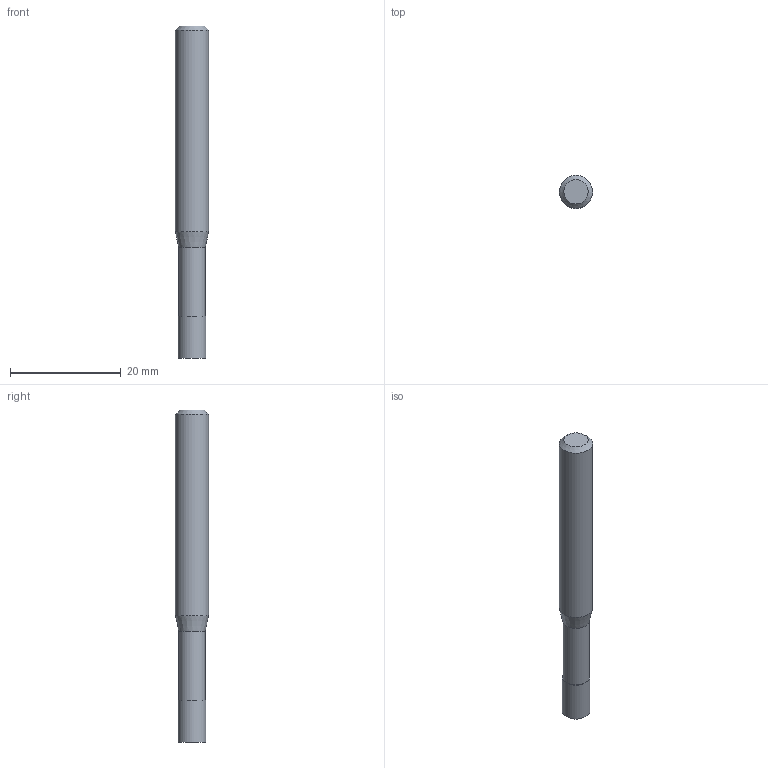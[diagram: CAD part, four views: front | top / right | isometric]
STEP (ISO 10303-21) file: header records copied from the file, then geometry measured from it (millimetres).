
FILE_DESCRIPTION((''),'2;1');
FILE_NAME('C:\Users\nsx150\AppData\Local\Temp\Mastercam 2021\17T8Q8S9EB\TEMP.step','2021-04-21T14:28:56',(''),(''),'STEP Write','Mastercam 2021 ... CNC Software, Inc.','');
FILE_SCHEMA(('AUTOMOTIVE_DESIGN'));
Length unit declared in the file: millimetre
Products named in the file (1): None
Bounding box: 6 x 6 x 60 mm (x, y, z)
Volume: 1484 mm3; surface area: 1132 mm2
Topology: 2 solids, 2 shells, 9 faces, 12 edges, 7 vertices
Faces by surface type: plane 4, cylinder 3, cone 2
Full cylindrical faces by diameter (mm): 4.8 x1, 5 x1, 6 x1
Entity records: 211 total; most frequent: DIRECTION 36, CARTESIAN_POINT 25, AXIS2_PLACEMENT_3D 18, ORIENTED_EDGE 14, EDGE_LOOP 14, STYLED_ITEM 12, ADVANCED_FACE 9, FACE_BOUND 8
